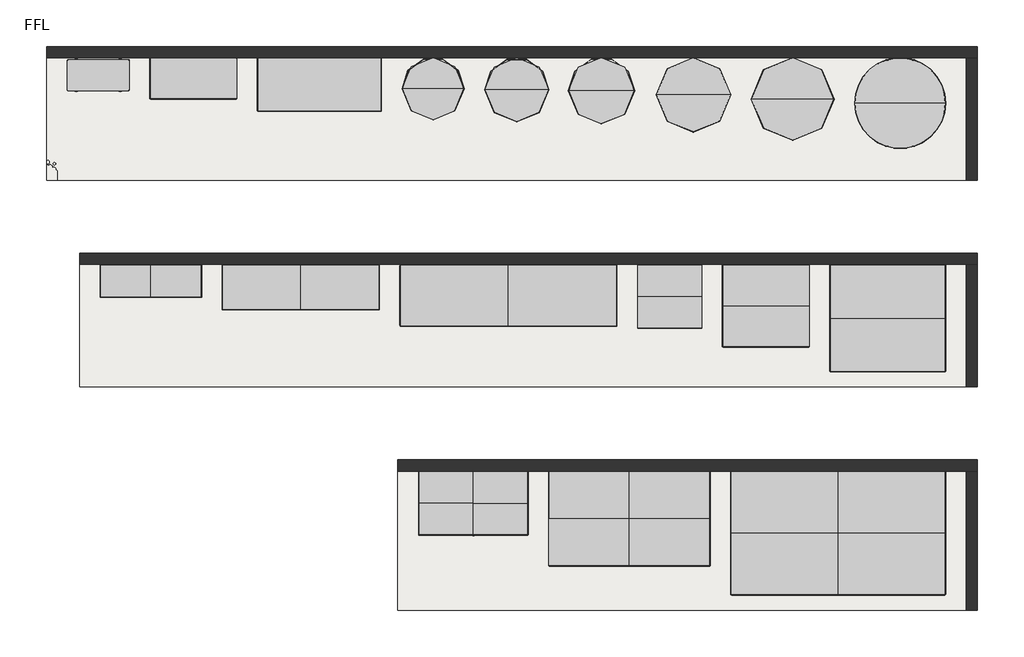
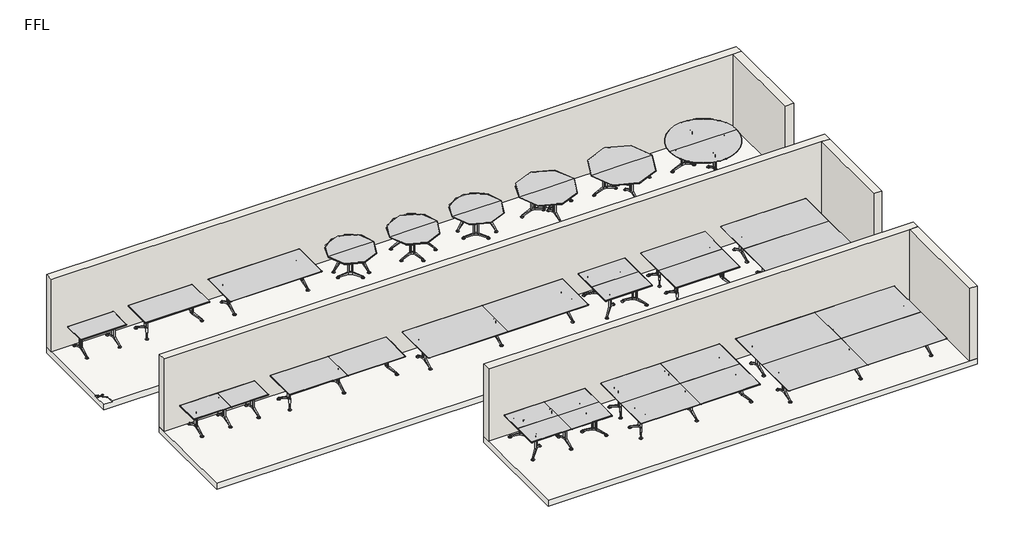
# One storey, incomplete: 18 furniture elements, 6 walls, 3 slabs.
"""IFC4 building model written with IfcOpenShell, lengths in millimetres."""

from ifc_helpers import new_model, si_unit, frame, origin, origin_with_axes, place, context, project, spatial, polyline, outline, extrude, faceted_brep, transform, mapped, element, save
from components import furniture_cd230aaf, furniture_56614e15, furniture_32fb68a4, furniture_2f5aa179, furniture_81fbef08, furniture_99fb2e03, furniture_cc9b5e61, furniture_6f6d3ea4, furniture_f511a58c, furniture_61daccc7, furniture_4e294f88, furniture_2437987b, furniture_db33388b, furniture_4840db4a, furniture_32e5604f, furniture_f2a24da4, furniture_cdf04b7c, furniture_8e140310, furniture_56f0e06c, furniture_0d1d803a, furniture_1809fa30, furniture_d52dea78, furniture_3627eb8b, furniture_7b60b26e, furniture_e8c99cdd, furniture_664180d8, furniture_a2308944, furniture_962fa7e1, furniture_16164661, furniture_2a9930ef, furniture_0c84aa9d

model = new_model("IFC4")

# Units and contexts
model_context = context("Model", 3, world=origin())
ifc_project = project(units=[si_unit("LENGTHUNIT", "METRE", prefix="MILLI")], contexts=[model_context])

# Site, building, storey
site = spatial("IfcSite", under=ifc_project)
building = spatial("IfcBuilding", under=site)
storey = spatial("IfcBuildingStorey", under=building, Name="FFL", Elevation=0.0)

# Furniture
placement = place(None, origin())
furniture_shape = furniture_cd230aaf(model_context)
element("IfcFurniture", 1, ObjectType="Furniture_Wilkhahn_620-00_Logon Table-Rectangle : Logon 620/00_1500L x 750W x 730H", at=placement, inside=storey, context=model_context, shape_type="MappedRepresentation", body=[
    mapped(furniture_shape, transform((-19015.7352929, 8532.2881759, 0.0), x_axis=(1.0, 0.0, 0.0), y_axis=(0.0, 1.0, 0.0), z_axis=(0.0, 0.0, 1.0))),
])
furniture_2_shape = furniture_56614e15(model_context)
element("IfcFurniture", 2, ObjectType="Furniture_Wilkhahn_620-00_Logon Table-Rectangle : Logon 620/00_3000L x 1300W x 730H", at=placement, inside=storey, context=model_context, shape_type="MappedRepresentation", body=[
    mapped(furniture_2_shape, transform((-13665.7352929, 8307.2881759, 0.0), x_axis=(1.0, 0.0, 0.0), y_axis=(0.0, 1.0, 0.0), z_axis=(0.0, 0.0, 1.0))),
])
furniture_3_shape = furniture_32fb68a4(model_context)
element("IfcFurniture", 3, ObjectType="Furniture_Wilkhahn_620-00_Logon Table-Rectangle : Logon 620/00_2100L x 1000W x 730H", at=placement, inside=storey, context=model_context, shape_type="MappedRepresentation", body=[
    mapped(furniture_3_shape, transform((-16715.7352929, 8457.2881759, 0.0), x_axis=(1.0, 0.0, 0.0), y_axis=(0.0, 1.0, 0.0), z_axis=(0.0, 0.0, 1.0))),
])
furniture_4_shape = furniture_2f5aa179(model_context)
furniture_5_shape = furniture_81fbef08(model_context)
element("IfcFurniture", 4, ObjectType="Furniture_Wilkhahn_622-45_Logon Circular Table : Logon 622/45_1800D x 730H", at=placement, inside=storey, context=model_context, shape_type="MappedRepresentation", body=[
    mapped(furniture_4_shape, transform((-4615.7352929, 8057.2881759, 0.0), x_axis=(1.0, 0.0, 0.0), y_axis=(0.0, 1.0, 0.0), z_axis=(0.0, 0.0, 1.0))),
    mapped(furniture_5_shape, transform((-4615.7352929, 8057.2881759, 0.0), x_axis=(1.0, 0.0, 0.0), y_axis=(0.0, 1.0, 0.0), z_axis=(0.0, 0.0, 1.0))),
])
furniture_6_shape = furniture_99fb2e03(model_context)
furniture_7_shape = furniture_cc9b5e61(model_context)
element("IfcFurniture", 5, ObjectType="Furniture_Wilkhahn_622-45_Logon Circular Table : Logon 622/45_2200D x 730H", at=placement, inside=storey, context=model_context, shape_type="MappedRepresentation", body=[
    mapped(furniture_6_shape, transform((384.2647071, 7857.2881759, 0.0), x_axis=(1.0, 0.0, 0.0), y_axis=(0.0, 1.0, 0.0), z_axis=(0.0, 0.0, 1.0))),
    mapped(furniture_7_shape, transform((384.2647071, 7857.2881759, 0.0), x_axis=(1.0, 0.0, 0.0), y_axis=(0.0, 1.0, 0.0), z_axis=(0.0, 0.0, 1.0))),
])
furniture_8_shape = furniture_6f6d3ea4(model_context)
furniture_9_shape = furniture_f511a58c(model_context)
element("IfcFurniture", 6, ObjectType="Furniture_Wilkhahn_622-45_Logon Circular Table : Logon 622/45_2000D x 730H", at=placement, inside=storey, context=model_context, shape_type="MappedRepresentation", body=[
    mapped(furniture_8_shape, transform((-2215.7352929, 7957.2881759, 0.0), x_axis=(1.0, 0.0, 0.0), y_axis=(0.0, 1.0, 0.0), z_axis=(0.0, 0.0, 1.0))),
    mapped(furniture_9_shape, transform((-2215.7352929, 7957.2881759, 0.0), x_axis=(1.0, 0.0, 0.0), y_axis=(0.0, 1.0, 0.0), z_axis=(0.0, 0.0, 1.0))),
])
furniture_10_shape = furniture_61daccc7(model_context)
element("IfcFurniture", 7, ObjectType="Furniture_Wilkhahn_621-35_Logon Circular Table : Logon 621/35_1500D x 730H", at=placement, inside=storey, context=model_context, shape_type="MappedRepresentation", body=[
    mapped(furniture_10_shape, transform((-10915.7352929, 8207.2881759, 0.0), x_axis=(1.0, 0.0, 0.0), y_axis=(0.0, 1.0, 0.0), z_axis=(0.0, 0.0, 1.0))),
])
furniture_11_shape = furniture_4e294f88(model_context)
element("IfcFurniture", 8, ObjectType="Furniture_Wilkhahn_621-35_Logon Circular Table : Logon 621/35_1600D x 730H", at=placement, inside=storey, context=model_context, shape_type="MappedRepresentation", body=[
    mapped(furniture_11_shape, transform((-6840.7506784, 8157.2881759, 0.0), x_axis=(1.0, 0.0, 0.0), y_axis=(0.0, 1.0, 0.0), z_axis=(0.0, 0.0, 1.0))),
])
furniture_12_shape = furniture_2437987b(model_context)
element("IfcFurniture", 9, ObjectType="Furniture_Wilkhahn_621-35_Logon Circular Table : Logon 621/35_1550D x 730H", at=placement, inside=storey, context=model_context, shape_type="MappedRepresentation", body=[
    mapped(furniture_12_shape, transform((-8890.7352929, 8207.2881759, 0.0), x_axis=(1.0, 0.0, 0.0), y_axis=(0.0, 1.0, 0.0), z_axis=(0.0, 0.0, 1.0))),
])
furniture_13_shape = furniture_db33388b(model_context)
furniture_14_shape = furniture_4840db4a(model_context)
element("IfcFurniture", 10, ObjectType="Furniture_Wilkhahn_620-24_Logon Table-Rectangle : Logon 620/23_1550L x 1550W x 730H", at=placement, inside=storey, context=model_context, shape_type="MappedRepresentation", body=[
    mapped(furniture_13_shape, transform((-5190.7352929, 3182.2881759, 0.0), x_axis=(1.0, 0.0, 0.0), y_axis=(0.0, 1.0, 0.0), z_axis=(0.0, 0.0, 1.0))),
    mapped(furniture_14_shape, transform((-5190.7352929, 3182.2881759, 0.0), x_axis=(1.0, 0.0, 0.0), y_axis=(0.0, 1.0, 0.0), z_axis=(0.0, 0.0, 1.0))),
])
furniture_15_shape = furniture_32e5604f(model_context)
furniture_16_shape = furniture_f2a24da4(model_context)
element("IfcFurniture", 11, ObjectType="Furniture_Wilkhahn_620-24_Logon Table-Rectangle : Logon 620/23_2800L x 2600W x 730H", at=placement, inside=storey, context=model_context, shape_type="MappedRepresentation", body=[
    mapped(furniture_15_shape, transform((84.2647071, 3182.2881759, 0.0), x_axis=(1.0, 0.0, 0.0), y_axis=(0.0, 1.0, 0.0), z_axis=(0.0, 0.0, 1.0))),
    mapped(furniture_16_shape, transform((84.2647071, 3182.2881759, 0.0), x_axis=(1.0, 0.0, 0.0), y_axis=(0.0, 1.0, 0.0), z_axis=(0.0, 0.0, 1.0))),
])
furniture_17_shape = furniture_cdf04b7c(model_context)
furniture_18_shape = furniture_8e140310(model_context)
element("IfcFurniture", 12, ObjectType="Furniture_Wilkhahn_620-24_Logon Table-Rectangle : Logon 620/23_2100L x 2000W x 730H", at=placement, inside=storey, context=model_context, shape_type="MappedRepresentation", body=[
    mapped(furniture_17_shape, transform((-2865.7352929, 3182.2881759, 0.0), x_axis=(1.0, 0.0, 0.0), y_axis=(0.0, 1.0, 0.0), z_axis=(0.0, 0.0, 1.0))),
    mapped(furniture_18_shape, transform((-2865.7352929, 3182.2881759, 0.0), x_axis=(1.0, 0.0, 0.0), y_axis=(0.0, 1.0, 0.0), z_axis=(0.0, 0.0, 1.0))),
])
furniture_19_shape = furniture_56f0e06c(model_context)
furniture_20_shape = furniture_0d1d803a(model_context)
furniture_21_shape = furniture_1809fa30(model_context)
element("IfcFurniture", 13, ObjectType="Furniture_Wilkhahn_620-46_Logon Table-Rectangle : Logon 620/46_2650L x 1550W x 730H", at=placement, inside=storey, context=model_context, shape_type="MappedRepresentation", body=[
    mapped(furniture_19_shape, transform((-9940.7352929, -1817.7118241, 0.0), x_axis=(1.0, 0.0, 0.0), y_axis=(0.0, 1.0, 0.0), z_axis=(0.0, 0.0, 1.0))),
    mapped(furniture_20_shape, transform((-9940.7352929, -1817.7118241, 0.0), x_axis=(1.0, 0.0, 0.0), y_axis=(0.0, 1.0, 0.0), z_axis=(0.0, 0.0, 1.0))),
    mapped(furniture_21_shape, transform((-9940.7352929, -1817.7118241, 0.0), x_axis=(1.0, 0.0, 0.0), y_axis=(0.0, 1.0, 0.0), z_axis=(0.0, 0.0, 1.0))),
])
furniture_22_shape = furniture_d52dea78(model_context)
furniture_23_shape = furniture_3627eb8b(model_context)
element("IfcFurniture", 14, ObjectType="Furniture_Wilkhahn_620-46_Logon Table-Rectangle : Logon 620/46_5200L x 3000W x 730H", at=placement, inside=storey, context=model_context, shape_type="MappedRepresentation", body=[
    mapped(furniture_22_shape, transform((-1115.7352929, -2542.7118241, 0.0), x_axis=(1.0, 0.0, 0.0), y_axis=(0.0, 1.0, 0.0), z_axis=(0.0, 0.0, 1.0))),
    mapped(furniture_23_shape, transform((-1115.7352929, -2542.7118241, 0.0), x_axis=(1.0, 0.0, 0.0), y_axis=(0.0, 1.0, 0.0), z_axis=(0.0, 0.0, 1.0))),
])
furniture_24_shape = furniture_7b60b26e(model_context)
furniture_25_shape = furniture_e8c99cdd(model_context)
furniture_26_shape = furniture_664180d8(model_context)
element("IfcFurniture", 15, ObjectType="Furniture_Wilkhahn_620-46_Logon Table-Rectangle : Logon 620/46_3900L x 2300W x 730H", at=placement, inside=storey, context=model_context, shape_type="MappedRepresentation", body=[
    mapped(furniture_24_shape, transform((-6165.7352929, -2192.7118241, 0.0), x_axis=(1.0, 0.0, 0.0), y_axis=(0.0, 1.0, 0.0), z_axis=(0.0, 0.0, 1.0))),
    mapped(furniture_25_shape, transform((-6165.7352929, -2192.7118241, 0.0), x_axis=(1.0, 0.0, 0.0), y_axis=(0.0, 1.0, 0.0), z_axis=(0.0, 0.0, 1.0))),
    mapped(furniture_26_shape, transform((-6165.7352929, -2192.7118241, 0.0), x_axis=(1.0, 0.0, 0.0), y_axis=(0.0, 1.0, 0.0), z_axis=(0.0, 0.0, 1.0))),
])
furniture_27_shape = furniture_a2308944(model_context)
furniture_28_shape = furniture_962fa7e1(model_context)
element("IfcFurniture", 16, ObjectType="Furniture_Wilkhahn_620-23_Logon Table-Rectangle : Logon 620/23_2450L x 800W x 730H", at=placement, inside=storey, context=model_context, shape_type="MappedRepresentation", body=[
    mapped(furniture_27_shape, transform((-17740.7352929, 3557.2881759, 0.0), x_axis=(1.0, 0.0, 0.0), y_axis=(0.0, 1.0, 0.0), z_axis=(0.0, 0.0, 1.0))),
    mapped(furniture_28_shape, transform((-17740.7352929, 3557.2881759, 0.0), x_axis=(1.0, 0.0, 0.0), y_axis=(0.0, 1.0, 0.0), z_axis=(0.0, 0.0, 1.0))),
])
furniture_29_shape = furniture_16164661(model_context)
element("IfcFurniture", 17, ObjectType="Furniture_Wilkhahn_620-23_Logon Table-Rectangle : Logon 620/23_5250L x 1500W x 730H", at=placement, inside=storey, context=model_context, shape_type="MappedRepresentation", body=[
    mapped(furniture_29_shape, transform((-9090.7352929, 3557.2881759, 0.0), x_axis=(1.0, 0.0, 0.0), y_axis=(0.0, 1.0, 0.0), z_axis=(0.0, 0.0, 1.0))),
])
furniture_30_shape = furniture_2a9930ef(model_context)
furniture_31_shape = furniture_0c84aa9d(model_context)
element("IfcFurniture", 18, ObjectType="Furniture_Wilkhahn_620-23_Logon Table-Rectangle : Logon 620/23_3800L x 1100W x 730H", at=placement, inside=storey, context=model_context, shape_type="MappedRepresentation", body=[
    mapped(furniture_30_shape, transform((-14115.7352929, 3557.2881759, 0.0), x_axis=(1.0, 0.0, 0.0), y_axis=(0.0, 1.0, 0.0), z_axis=(0.0, 0.0, 1.0))),
    mapped(furniture_31_shape, transform((-14115.7352929, 3557.2881759, 0.0), x_axis=(1.0, 0.0, 0.0), y_axis=(0.0, 1.0, 0.0), z_axis=(0.0, 0.0, 1.0))),
])

# Slabs
element("IfcSlab", 19, ObjectType="Generic 200mm", at=placement, inside=storey, context=model_context, shape_type="Brep", body=[
    faceted_brep([(2254.2647071, 9253.2393304, -200.0), (2254.2647071, 6018.2393304, -200.0), (-20265.7352929, 6018.2393304, -200.0), (-20265.7352929, 9253.2393304, -200.0), (2254.2647071, 6018.2393304, 0.0), (2254.2647071, 9253.2393304, 0.0), (-20265.7352929, 9253.2393304, 0.0), (-20265.7352929, 6488.2584174, 0.0), (-20228.7223575, 6509.6278457, 0.0), (-20182.3702024, 6482.8664165, 0.0), (-20182.3702024, 6427.6947831, 0.0), (-20228.7223575, 6400.933354, 0.0), (-20265.7352929, 6422.3027822, 0.0), (-20265.7352929, 6409.2845408, 0.0), (-20218.7403751, 6382.1520124, 0.0), (-20172.7358496, 6408.7127376, 0.0), (-20113.5048451, 6374.5157012, 0.0), (-20113.5048451, 6327.8774715, 0.0), (-20084.2362051, 6344.7757287, 0.0), (-20029.5871808, 6313.2240998, 0.0), (-20029.5871808, 6274.1132559, 0.0), (-19994.9461647, 6254.1132559, 0.0), (-19994.9461647, 6018.2393304, 0.0), (-20078.6159207, 6451.7417473, 0.0), (-20047.8110434, 6433.9565431, 0.0), (-20047.8110434, 6401.3487482, 0.0), (-20078.6159207, 6383.563544, 0.0), (-20109.420798, 6401.3487482, 0.0), (-20109.420798, 6433.9565431, 0.0), (-19994.9461647, 6018.2393304, -25.0), (-20265.7352929, 6018.2393304, -25.0), (-20265.7352929, 6409.295444, -25.0), (-20265.7352929, 6422.3027822, -25.0), (-20265.7352929, 6488.2584174, -25.0), (-19994.9461647, 6254.1132559, -25.0), (-20029.5871808, 6274.1132559, -25.0), (-20029.5871808, 6313.2240998, -25.0), (-20084.2362051, 6344.7757287, -25.0), (-20113.5048451, 6327.8774715, -25.0), (-20113.5048451, 6374.5157012, -25.0), (-20172.7358496, 6408.7127376, -25.0), (-20218.7403751, 6382.1520124, -25.0), (-20182.3702024, 6482.8664165, -25.0), (-20228.7223575, 6509.6278457, -25.0), (-20228.7223575, 6400.933354, -25.0), (-20182.3702024, 6427.6947831, -25.0), (-20047.8110434, 6433.9565431, -25.0), (-20078.6159207, 6451.7417473, -25.0), (-20109.420798, 6433.9565431, -25.0), (-20109.420798, 6401.3487482, -25.0), (-20078.6159207, 6383.563544, -25.0), (-20047.8110434, 6401.3487482, -25.0)], [[[0, 1, 2, 3]], [[4, 5, 6, 7, 8, 9, 10, 11, 12, 13, 14, 15, 16, 17, 18, 19, 20, 21, 22], [23, 24, 25, 26, 27, 28]], [[1, 0, 5, 4]], [[2, 1, 4, 22, 29, 30]], [[3, 2, 30, 31, 13, 12, 32, 33, 7, 6]], [[0, 3, 6, 5]], [[34, 35, 36, 37, 38, 39, 40, 41, 31, 30, 29]], [[42, 43, 33, 32, 44, 45]], [[46, 47, 48, 49, 50, 51]], [[34, 29, 22, 21]], [[35, 34, 21, 20]], [[36, 35, 20, 19]], [[37, 36, 19, 18]], [[38, 37, 18, 17]], [[39, 38, 17, 16]], [[40, 39, 16, 15]], [[41, 40, 15, 14]], [[31, 41, 14, 13]], [[43, 42, 9, 8]], [[33, 43, 8, 7]], [[44, 32, 12, 11]], [[45, 44, 11, 10]], [[42, 45, 10, 9]], [[47, 46, 24, 23]], [[48, 47, 23, 28]], [[49, 48, 28, 27]], [[50, 49, 27, 26]], [[51, 50, 26, 25]], [[46, 51, 25, 24]]]),
])
element("IfcSlab", 20, ObjectType="Generic 200mm", at=placement, inside=storey, context=model_context, shape_type="SweptSolid", body=[
    extrude(outline(polyline([(2254.2647071, 4253.2393304), (2254.2647071, 1018.2393304), (-19465.7352929, 1018.2393304), (-19465.7352929, 4253.2393304), (2254.2647071, 4253.2393304)])), frame((0.0, 0.0, -200.0), z_axis=(0.0, 0.0, 1.0), x_axis=(1.0, 0.0, 0.0)), (0.0, 0.0, 1.0), 200.0),
])
element("IfcSlab", 21, ObjectType="Generic 200mm", at=placement, inside=storey, context=model_context, shape_type="SweptSolid", body=[
    extrude(outline(polyline([(2254.2647071, -746.7606696), (2254.2647071, -4381.7606696), (-11765.7352929, -4381.7606696), (-11765.7352929, -746.7606696), (2254.2647071, -746.7606696)])), frame((0.0, 0.0, -200.0), z_axis=(0.0, 0.0, 1.0), x_axis=(1.0, 0.0, 0.0)), (0.0, 0.0, 1.0), 200.0),
])

# Walls
element("IfcWall", 22, ObjectType="Double brick - 270", at=placement, inside=storey, context=model_context, shape_type="Brep", body=[
    faceted_brep([(-20265.7352929, 8983.2393304, 0.0), (1984.2647071, 8983.2393304, 0.0), (2254.2647071, 8983.2393304, 0.0), (2254.2647071, 8983.2393304, 2500.0), (1984.2647071, 8983.2393304, 2500.0), (-20265.7352929, 8983.2393304, 2500.0), (-20265.7352929, 9253.2393304, 0.0), (-20265.7352929, 9253.2393304, 2500.0), (2254.2647071, 9253.2393304, 2500.0), (2254.2647071, 9253.2393304, 0.0)], [[[0, 1, 2, 3, 4, 5]], [[6, 7, 8, 9]], [[2, 1, 0, 6, 9]], [[5, 4, 3, 8, 7]], [[0, 5, 7, 6]], [[3, 2, 9, 8]]]),
])
element("IfcWall", 23, ObjectType="Double brick - 270", at=placement, inside=storey, context=model_context, shape_type="SweptSolid", body=[
    extrude(outline(polyline([(2254.2647071, 8983.2393304), (2254.2647071, 6018.2393304), (1984.2647071, 6018.2393304), (1984.2647071, 8983.2393304), (2254.2647071, 8983.2393304)])), origin_with_axes(), (0.0, 0.0, 1.0), 2500.0),
])
element("IfcWall", 24, ObjectType="Double brick - 270", at=placement, inside=storey, context=model_context, shape_type="Brep", body=[
    faceted_brep([(-19465.7352929, 3983.2393304, 0.0), (1984.2647071, 3983.2393304, 0.0), (2254.2647071, 3983.2393304, 0.0), (2254.2647071, 3983.2393304, 2500.0), (1984.2647071, 3983.2393304, 2500.0), (-19465.7352929, 3983.2393304, 2500.0), (-19465.7352929, 4253.2393304, 0.0), (-19465.7352929, 4253.2393304, 2500.0), (2254.2647071, 4253.2393304, 2500.0), (2254.2647071, 4253.2393304, 0.0)], [[[0, 1, 2, 3, 4, 5]], [[6, 7, 8, 9]], [[2, 1, 0, 6, 9]], [[5, 4, 3, 8, 7]], [[0, 5, 7, 6]], [[3, 2, 9, 8]]]),
])
element("IfcWall", 25, ObjectType="Double brick - 270", at=placement, inside=storey, context=model_context, shape_type="SweptSolid", body=[
    extrude(outline(polyline([(2254.2647071, 3983.2393304), (2254.2647071, 1018.2393304), (1984.2647071, 1018.2393304), (1984.2647071, 3983.2393304), (2254.2647071, 3983.2393304)])), origin_with_axes(), (0.0, 0.0, 1.0), 2500.0),
])
element("IfcWall", 26, ObjectType="Double brick - 270", at=placement, inside=storey, context=model_context, shape_type="Brep", body=[
    faceted_brep([(-11765.7352929, -1016.7606696, 0.0), (1984.2647071, -1016.7606696, 0.0), (2254.2647071, -1016.7606696, 0.0), (2254.2647071, -1016.7606696, 2500.0), (1984.2647071, -1016.7606696, 2500.0), (-11765.7352929, -1016.7606696, 2500.0), (-11765.7352929, -746.7606696, 0.0), (-11765.7352929, -746.7606696, 2500.0), (2254.2647071, -746.7606696, 2500.0), (2254.2647071, -746.7606696, 0.0)], [[[0, 1, 2, 3, 4, 5]], [[6, 7, 8, 9]], [[2, 1, 0, 6, 9]], [[5, 4, 3, 8, 7]], [[0, 5, 7, 6]], [[3, 2, 9, 8]]]),
])
element("IfcWall", 27, ObjectType="Double brick - 270", at=placement, inside=storey, context=model_context, shape_type="SweptSolid", body=[
    extrude(outline(polyline([(2254.2647071, -1016.7606696), (2254.2647071, -4381.7606696), (1984.2647071, -4381.7606696), (1984.2647071, -1016.7606696), (2254.2647071, -1016.7606696)])), origin_with_axes(), (0.0, 0.0, 1.0), 2500.0),
])

save(model, "model.ifc")
